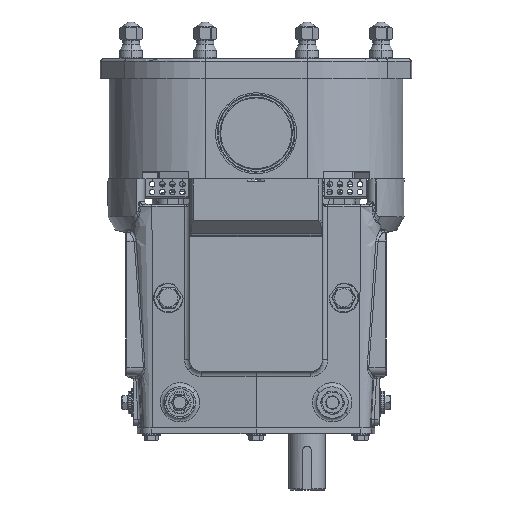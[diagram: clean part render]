
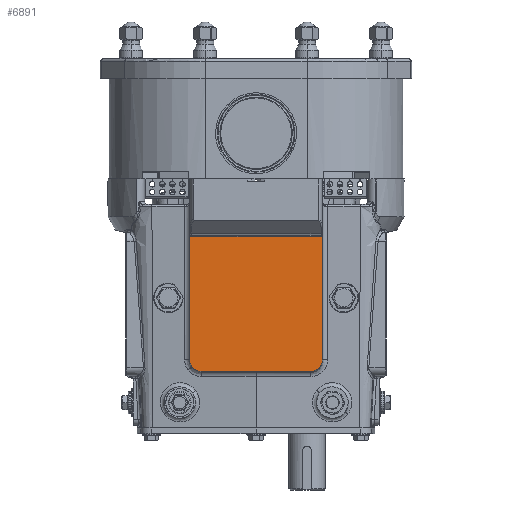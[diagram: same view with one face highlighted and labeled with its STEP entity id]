
A CAD part, left-side view. The second image highlights one B-rep face of the part: STEP entity #6891.
In plain terms, the highlighted planar face has unit normal (-1, 0, 0).
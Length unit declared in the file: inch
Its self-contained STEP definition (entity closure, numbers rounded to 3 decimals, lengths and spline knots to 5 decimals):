
#2175 = CARTESIAN_POINT ( 'NONE',  ( -3.498, 2.9312, -3.00071 ) ) ;
#4949 = VECTOR ( 'NONE', #33725, 39.37008 ) ;
#6531 = VERTEX_POINT ( 'NONE', #47644 ) ;
#6829 = VECTOR ( 'NONE', #69768, 39.37008 ) ;
#6835 = LINE ( 'NONE', #15397, #4949 ) ;
#6891 = ADVANCED_FACE ( 'NONE', ( #43501 ), #26927, .F. ) ;
#7764 = EDGE_LOOP ( 'NONE', ( #57683, #16305, #70512, #30864, #27277, #55622, #11823, #17266 ) ) ;
#9676 = EDGE_CURVE ( 'NONE', #45088, #45610, #63047, .T. ) ;
#10449 = EDGE_CURVE ( 'NONE', #36249, #14430, #69406, .T. ) ;
#11029 = EDGE_CURVE ( 'NONE', #72043, #45088, #22528, .T. ) ;
#11159 = LINE ( 'NONE', #61506, #57601 ) ;
#11823 = ORIENTED_EDGE ( 'NONE', *, *, #55150, .T. ) ;
#14430 = VERTEX_POINT ( 'NONE', #47706 ) ;
#14634 = CIRCLE ( 'NONE', #55699, 0.5 ) ;
#15227 = CARTESIAN_POINT ( 'NONE',  ( -3.498, -2.43, -8.18 ) ) ;
#15397 = CARTESIAN_POINT ( 'NONE',  ( -3.498, -6.55373, -2.735 ) ) ;
#16305 = ORIENTED_EDGE ( 'NONE', *, *, #9676, .F. ) ;
#17266 = ORIENTED_EDGE ( 'NONE', *, *, #10449, .F. ) ;
#21358 = DIRECTION ( 'NONE',  ( 0., 0., -1. ) ) ;
#21766 = CARTESIAN_POINT ( 'NONE',  ( -3.498, -2.43, -8.68 ) ) ;
#22528 =( BOUNDED_CURVE ( )  B_SPLINE_CURVE ( 3, ( #53282, #29190, #65474, #71591 ),
 .UNSPECIFIED., .F., .F. ) 
 B_SPLINE_CURVE_WITH_KNOTS ( ( 4, 4 ),
 ( 1.40128, 1.5708 ),
 .UNSPECIFIED. ) 
 CURVE ( )  GEOMETRIC_REPRESENTATION_ITEM ( )  RATIONAL_B_SPLINE_CURVE ( ( 1., 0.998, 0.998, 1. ) ) 
 REPRESENTATION_ITEM ( '' )  );
#23197 = DIRECTION ( 'NONE',  ( -1., 0., 0. ) ) ;
#24385 = CARTESIAN_POINT ( 'NONE',  ( -3.498, -2.93, -3.37 ) ) ;
#26927 = PLANE ( 'NONE',  #65161 ) ;
#27277 = ORIENTED_EDGE ( 'NONE', *, *, #47370, .F. ) ;
#29190 = CARTESIAN_POINT ( 'NONE',  ( -3.498, -2.9312, -3.00071 ) ) ;
#30864 = ORIENTED_EDGE ( 'NONE', *, *, #33979, .T. ) ;
#33044 = DIRECTION ( 'NONE',  ( 1., 0., 0. ) ) ;
#33532 = CARTESIAN_POINT ( 'NONE',  ( -3.498, -6.55373, -8.68 ) ) ;
#33725 = DIRECTION ( 'NONE',  ( 0., 1., 0. ) ) ;
#33979 = EDGE_CURVE ( 'NONE', #72043, #6531, #6835, .T. ) ;
#35564 = CARTESIAN_POINT ( 'NONE',  ( -3.498, -2.93358, -2.735 ) ) ;
#36249 = VERTEX_POINT ( 'NONE', #21766 ) ;
#36515 = CIRCLE ( 'NONE', #58521, 0.5 ) ;
#37380 = DIRECTION ( 'NONE',  ( 0., 0., -1. ) ) ;
#38244 = CARTESIAN_POINT ( 'NONE',  ( -3.498, 2.93, -3.5389 ) ) ;
#40787 = EDGE_CURVE ( 'NONE', #49652, #65024, #11159, .T. ) ;
#43501 = FACE_OUTER_BOUND ( 'NONE', #7764, .T. ) ;
#44592 = CARTESIAN_POINT ( 'NONE',  ( -3.498, 2.93358, -2.735 ) ) ;
#45088 = VERTEX_POINT ( 'NONE', #72322 ) ;
#45610 = VERTEX_POINT ( 'NONE', #77537 ) ;
#47370 = EDGE_CURVE ( 'NONE', #49652, #6531, #61109, .T. ) ;
#47644 = CARTESIAN_POINT ( 'NONE',  ( -3.498, 2.93358, -2.735 ) ) ;
#47706 = CARTESIAN_POINT ( 'NONE',  ( -3.498, 2.43, -8.68 ) ) ;
#48730 = DIRECTION ( 'NONE',  ( 0., 0., -1. ) ) ;
#49504 = CARTESIAN_POINT ( 'NONE',  ( -3.498, 2.93, -3.5389 ) ) ;
#49652 = VERTEX_POINT ( 'NONE', #49504 ) ;
#50345 = EDGE_CURVE ( 'NONE', #36249, #45610, #36515, .T. ) ;
#53282 = CARTESIAN_POINT ( 'NONE',  ( -3.498, -2.93358, -2.735 ) ) ;
#55150 = EDGE_CURVE ( 'NONE', #65024, #14430, #14634, .T. ) ;
#55622 = ORIENTED_EDGE ( 'NONE', *, *, #40787, .T. ) ;
#55699 = AXIS2_PLACEMENT_3D ( 'NONE', #59482, #23197, #65550 ) ;
#57601 = VECTOR ( 'NONE', #37380, 39.37008 ) ;
#57613 = DIRECTION ( 'NONE',  ( -1., 0., 0. ) ) ;
#57683 = ORIENTED_EDGE ( 'NONE', *, *, #50345, .T. ) ;
#58521 = AXIS2_PLACEMENT_3D ( 'NONE', #15227, #57613, #21358 ) ;
#59482 = CARTESIAN_POINT ( 'NONE',  ( -3.498, 2.43, -8.18 ) ) ;
#61109 =( BOUNDED_CURVE ( )  B_SPLINE_CURVE ( 3, ( #38244, #74563, #2175, #44592 ),
 .UNSPECIFIED., .F., .F. ) 
 B_SPLINE_CURVE_WITH_KNOTS ( ( 4, 4 ),
 ( 1.5708, 1.74031 ),
 .UNSPECIFIED. ) 
 CURVE ( )  GEOMETRIC_REPRESENTATION_ITEM ( )  RATIONAL_B_SPLINE_CURVE ( ( 1., 0.998, 0.998, 1. ) ) 
 REPRESENTATION_ITEM ( '' )  );
#61506 = CARTESIAN_POINT ( 'NONE',  ( -3.498, 2.93, -3.37 ) ) ;
#63047 = LINE ( 'NONE', #24385, #77263 ) ;
#65024 = VERTEX_POINT ( 'NONE', #71600 ) ;
#65161 = AXIS2_PLACEMENT_3D ( 'NONE', #69270, #33044, #75422 ) ;
#65474 = CARTESIAN_POINT ( 'NONE',  ( -3.498, -2.93, -3.26932 ) ) ;
#65550 = DIRECTION ( 'NONE',  ( 0., 0., -1. ) ) ;
#69270 = CARTESIAN_POINT ( 'NONE',  ( -3.498, -6.55373, -8.68 ) ) ;
#69406 = LINE ( 'NONE', #33532, #6829 ) ;
#69768 = DIRECTION ( 'NONE',  ( 0., 1., 0. ) ) ;
#70512 = ORIENTED_EDGE ( 'NONE', *, *, #11029, .F. ) ;
#71591 = CARTESIAN_POINT ( 'NONE',  ( -3.498, -2.93, -3.5389 ) ) ;
#71600 = CARTESIAN_POINT ( 'NONE',  ( -3.498, 2.93, -8.18 ) ) ;
#72043 = VERTEX_POINT ( 'NONE', #35564 ) ;
#72322 = CARTESIAN_POINT ( 'NONE',  ( -3.498, -2.93, -3.5389 ) ) ;
#74563 = CARTESIAN_POINT ( 'NONE',  ( -3.498, 2.93, -3.26932 ) ) ;
#75422 = DIRECTION ( 'NONE',  ( 0., 0., -1. ) ) ;
#77263 = VECTOR ( 'NONE', #48730, 39.37008 ) ;
#77537 = CARTESIAN_POINT ( 'NONE',  ( -3.498, -2.93, -8.18 ) ) ;
